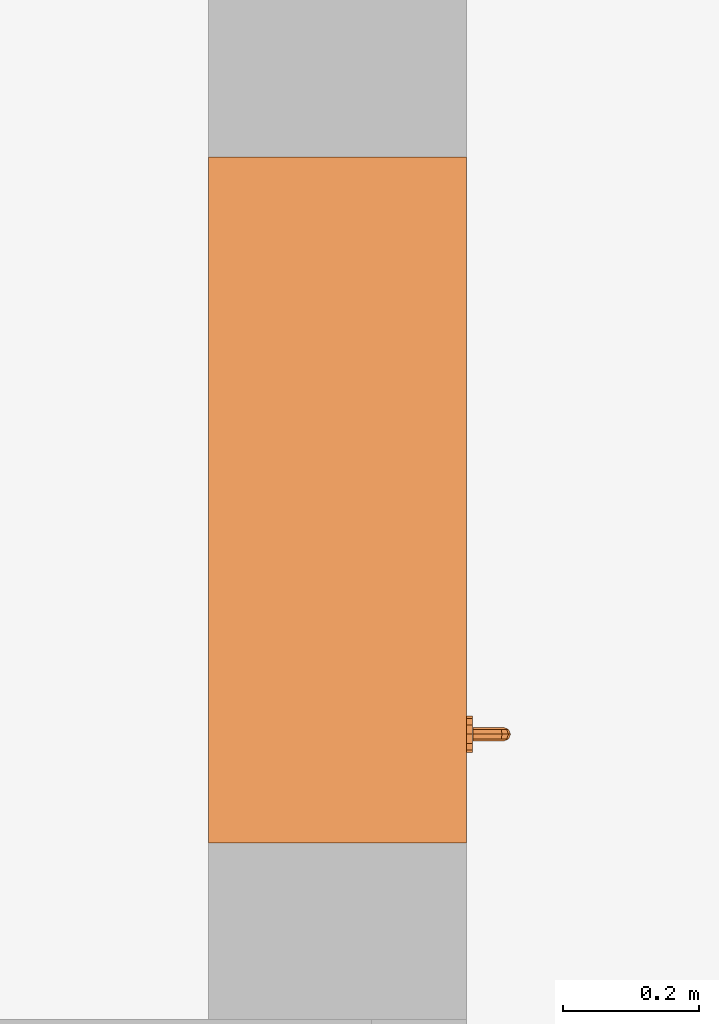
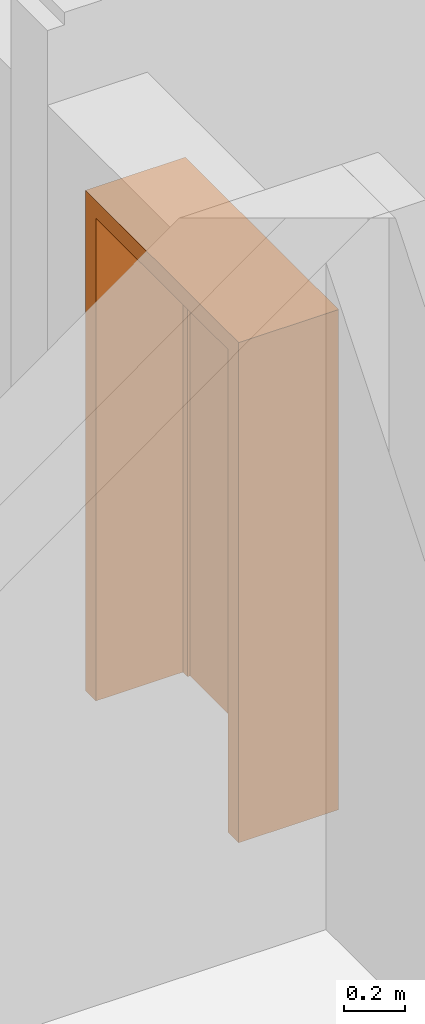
# One storey, part 3 of 5: 1 proxy.
"""IFC4 building model written with IfcOpenShell, lengths in metres."""

import ifcopenshell
import ifcopenshell.guid

model = None  # the IFC model being written
_history = None  # IfcOwnerHistory: only IFC2X3 demands one
_inside = {}  # id of a spatial element -> (the spatial element, [elements in it])
_under = {}  # id of a project, library or spatial element -> (it, [spatial elements below it])
_declared = {}  # id of a project -> (the project, [libraries it declares])
_typed = {}  # id of a type object -> (the type object, [elements of that type])
_made_of = {}  # id of a material, layer set ... -> (it, [elements and type objects made of it])


def new_model(schema):
    """Start an empty IFC model of exactly this schema.

    Asked for "IFC4X3", IfcOpenShell would pick the latest addendum, in which some entities
    have other attributes; the version numbers below select the first issue.
    IFC2X3 requires an IfcOwnerHistory on every rooted entity: one is made here for all.
    """
    global model, _history
    if schema == "IFC4X3":
        model = ifcopenshell.file(schema_version=(4, 3, 0, 0))
    else:
        model = ifcopenshell.file(schema=schema)
    _inside.clear()
    _under.clear()
    _declared.clear()
    _typed.clear()
    _made_of.clear()
    _history = None
    if model.schema == "IFC2X3":
        org = make("IfcOrganization", Name="unknown")
        user = make(
            "IfcPersonAndOrganization",
            ThePerson=make("IfcPerson", FamilyName="unknown"),
            TheOrganization=org,
        )
        app = make(
            "IfcApplication",
            ApplicationDeveloper=org,
            Version="unknown",
            ApplicationFullName="unknown",
            ApplicationIdentifier="unknown",
        )
        _history = make(
            "IfcOwnerHistory",
            OwningUser=user,
            OwningApplication=app,
            ChangeAction="ADDED",
            CreationDate=0,
        )
    return model


def make(cls, **values):
    """One entity of the class cls with the attributes given. An attribute that is None is left unset."""
    return model.create_entity(
        cls, **{name: value for name, value in values.items() if value is not None}
    )


def entity(cls, *values):
    """Any entity or typed value of the class cls, its attributes in the order of the schema. None: left unset."""
    e = model.create_entity(cls)
    for i, value in enumerate(values):
        if value is not None:
            e[i] = value
    return e


def rooted(cls, **values):
    """An entity with a GlobalId (a new one), such as an element, a storey or a relation."""
    return make(cls, GlobalId=ifcopenshell.guid.new(), OwnerHistory=_history, **values)


def si_unit(unit_type, name, prefix=None):
    """IfcSIUnit, for example si_unit("LENGTHUNIT", "METRE", prefix="MILLI")."""
    return make("IfcSIUnit", UnitType=unit_type, Prefix=prefix, Name=name)


def converted_unit(unit_type, name, factor, base, dimensions=None, offset=None):
    """IfcConversionBasedUnit, such as the inch: factor (a typed value) times the base unit."""
    return make(
        "IfcConversionBasedUnit"
        if offset is None
        else "IfcConversionBasedUnitWithOffset",
        ConversionOffset=offset,
        Dimensions=None
        if dimensions is None
        else entity("IfcDimensionalExponents", *dimensions),
        UnitType=unit_type,
        Name=name,
        ConversionFactor=make(
            "IfcMeasureWithUnit", ValueComponent=factor, UnitComponent=base
        ),
    )


def derived_unit(unit_type, elements):
    """IfcDerivedUnit: a product of units, each with its exponent."""
    return make(
        "IfcDerivedUnit",
        Elements=[
            make("IfcDerivedUnitElement", Unit=unit, Exponent=power)
            for unit, power in elements
        ],
        UnitType=unit_type,
    )


def assignment(units):
    """IfcUnitAssignment: the units of a project."""
    return None if units is None else make("IfcUnitAssignment", Units=units)


def point(xyz):
    """IfcCartesianPoint."""
    return None if xyz is None else make("IfcCartesianPoint", Coordinates=xyz)


def direction(xyz):
    """IfcDirection."""
    return None if xyz is None else make("IfcDirection", DirectionRatios=xyz)


def frame(location, z_axis=None, x_axis=None):
    """IfcAxis2Placement3D, a coordinate frame: its origin and axes. An axis left out is left unset."""
    return make(
        "IfcAxis2Placement3D",
        Location=point(location),
        Axis=direction(z_axis),
        RefDirection=direction(x_axis),
    )


def origin_with_axes():
    """The frame at (0, 0, 0) with the z axis (0, 0, 1) and the x axis (1, 0, 0) written out."""
    return frame((0.0, 0.0, 0.0), z_axis=(0.0, 0.0, 1.0), x_axis=(1.0, 0.0, 0.0))


def place(relative_to, where):
    """IfcLocalPlacement: puts the frame where relative to a parent placement (None: the world)."""
    return make(
        "IfcLocalPlacement", PlacementRelTo=relative_to, RelativePlacement=where
    )


def context(
    kind, dimensions, precision=None, world=None, true_north=None, identifier=None
):
    """IfcGeometricRepresentationContext, for example the 3D "Model" context."""
    return make(
        "IfcGeometricRepresentationContext",
        ContextIdentifier=identifier,
        ContextType=kind,
        CoordinateSpaceDimension=dimensions,
        Precision=precision,
        WorldCoordinateSystem=world,
        TrueNorth=true_north,
    )


def subcontext(parent, identifier, kind, view, scale=None):
    """IfcGeometricRepresentationSubContext, for example "Body" below "Model"."""
    return make(
        "IfcGeometricRepresentationSubContext",
        ContextIdentifier=identifier,
        ContextType=kind,
        ParentContext=parent,
        TargetScale=scale,
        TargetView=view,
    )


def project(units=None, contexts=None):
    """IfcProject with its units and contexts."""
    return rooted(
        "IfcProject",
        Name="project",
        RepresentationContexts=contexts,
        UnitsInContext=assignment(units),
    )


def spatial(cls, under=None, at=None, **own):
    """A site, building, storey or space (cls), placed at a placement, below another one or the project."""
    s = rooted(cls, ObjectPlacement=at, **own)
    if under is not None:
        _under.setdefault(under.id(), (under, []))[1].append(s)
    return s


def point_list(points):
    """IfcCartesianPointList2D or 3D."""
    cls = (
        "IfcCartesianPointList2D" if len(points[0]) == 2 else "IfcCartesianPointList3D"
    )
    return make(cls, CoordList=points)


def triangles(points, corners, closed=None, point_numbers=None):
    """IfcTriangulatedFaceSet: each triangle names its three corners, points numbered from 1."""
    return make(
        "IfcTriangulatedFaceSet",
        Coordinates=point_list(points),
        Closed=closed,
        CoordIndex=corners,
        PnIndex=point_numbers,
    )


def shape(context_of_items, identifier, shape_type, items):
    """IfcShapeRepresentation: the items that make up one representation, for example the "Body"."""
    return make(
        "IfcShapeRepresentation",
        ContextOfItems=context_of_items,
        RepresentationIdentifier=identifier,
        RepresentationType=shape_type,
        Items=items,
    )


def made_of(thing, what):
    """Note that an element or type object is made of a material, layer set ...; save() writes the relation."""
    if what is not None:
        _made_of.setdefault(what.id(), (what, []))[1].append(thing)
    return thing


def type_object(cls, material=None, **own):
    """A type object (cls), such as IfcWallType, which elements share."""
    return made_of(rooted(cls, **own), material)


def element(
    cls,
    number,
    at=None,
    inside=None,
    cuts=None,
    type_object=None,
    material=None,
    context=None,
    identifier="Body",
    shape_type=None,
    held_by="IfcProductDefinitionShape",
    body=None,
    shapes=None,
    **own,
):
    """One element of the class cls, such as IfcWall. Its Tag is "e" and its number.

    at: its placement. inside: the storey or other place that contains it. cuts: it is an
    opening in that element (IfcRelVoidsElement). A single representation is given by context,
    identifier, shape_type and body (its items); several are given by shapes. held_by: the class
    of the entity that holds the representations. save() writes the other relations.
    """
    e = rooted(cls, Tag="e%d" % number, ObjectPlacement=at, **own)
    if body is not None:
        shapes = [shape(context, identifier, shape_type, body)]
    if shapes is not None:
        e.Representation = make(held_by, Representations=shapes)
    if inside is not None:
        _inside.setdefault(inside.id(), (inside, []))[1].append(e)
    if cuts is not None:
        rooted(
            "IfcRelVoidsElement", RelatingBuildingElement=cuts, RelatedOpeningElement=e
        )
    if type_object is not None:
        _typed.setdefault(type_object.id(), (type_object, []))[1].append(e)
    return made_of(e, material)


def aggregate(whole, parts):
    """IfcRelAggregates: a whole, such as a stair, and the parts it consists of."""
    return rooted("IfcRelAggregates", RelatingObject=whole, RelatedObjects=parts)


def save(model, path):
    """Write the relations noted so far, then the file.

    IfcRelAggregates (storeys below a building ...), IfcRelContainedInSpatialStructure (elements
    in a storey), IfcRelDefinesByType, IfcRelAssociatesMaterial and IfcRelDeclares: one each for
    every whole, place, type object, material and project.
    """
    for whole, parts in _under.values():
        aggregate(whole, parts)
    for where, things in _inside.values():
        rooted(
            "IfcRelContainedInSpatialStructure",
            RelatedElements=things,
            RelatingStructure=where,
        )
    for kind, things in _typed.values():
        rooted("IfcRelDefinesByType", RelatedObjects=things, RelatingType=kind)
    for what, things in _made_of.values():
        rooted("IfcRelAssociatesMaterial", RelatedObjects=things, RelatingMaterial=what)
    for by, libraries in _declared.values():
        rooted("IfcRelDeclares", RelatingContext=by, RelatedDefinitions=libraries)
    model.write(path)


model = new_model("IFC4")

# Units and contexts
model_context = context("Model", 3, precision=1e-05, world=origin_with_axes(), true_north=direction((-0.526213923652, 0.850352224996)))
body_context = subcontext(model_context, "Body", "Model", "MODEL_VIEW")
ifc_project = project(units=[si_unit("LENGTHUNIT", "METRE"), si_unit("AREAUNIT", "SQUARE_METRE"), si_unit("VOLUMEUNIT", "CUBIC_METRE"), converted_unit("PLANEANGLEUNIT", "DEGREE", entity("IfcPlaneAngleMeasure", 0.0174532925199), si_unit("PLANEANGLEUNIT", "RADIAN"), dimensions=[0, 0, 0, 0, 0, 0, 0]), si_unit("SOLIDANGLEUNIT", "STERADIAN"), converted_unit("TIMEUNIT", "Year", entity("IfcTimeMeasure", 31556926.0), si_unit("TIMEUNIT", "SECOND"), dimensions=[0, 0, 1, 0, 0, 0, 0]), si_unit("MASSUNIT", "GRAM", prefix="KILO"), si_unit("THERMODYNAMICTEMPERATUREUNIT", "DEGREE_CELSIUS"), si_unit("LUMINOUSINTENSITYUNIT", "LUMEN"), si_unit("ENERGYUNIT", "JOULE", prefix="MEGA"), derived_unit("THERMALCONDUCTANCEUNIT", [(si_unit("POWERUNIT", "WATT"), 1), (si_unit("LENGTHUNIT", "METRE"), -1), (si_unit("THERMODYNAMICTEMPERATUREUNIT", "KELVIN"), -1)]), derived_unit("SPECIFICHEATCAPACITYUNIT", [(si_unit("ENERGYUNIT", "JOULE"), 1), (si_unit("MASSUNIT", "GRAM", prefix="KILO"), -1), (si_unit("THERMODYNAMICTEMPERATUREUNIT", "KELVIN"), -1)]), derived_unit("MASSDENSITYUNIT", [(si_unit("MASSUNIT", "GRAM", prefix="KILO"), 1), (si_unit("VOLUMEUNIT", "CUBIC_METRE"), -1)])], contexts=[model_context])

# Site, building, storey
site_placement = place(None, origin_with_axes())
site = spatial("IfcSite", under=ifc_project, at=site_placement, Name="Gelände", CompositionType="ELEMENT")
building_placement = place(site_placement, origin_with_axes())
building = spatial("IfcBuilding", under=site, at=building_placement, Name="Haus vom Nikolaus", CompositionType="ELEMENT")
storey_placement = place(building_placement, frame((0.0, 0.0, -2.8), z_axis=(0.0, 0.0, 1.0), x_axis=(1.0, 0.0, 0.0)))
storey = spatial("IfcBuildingStorey", under=building, at=storey_placement, Name="-1. Geschoss", CompositionType="ELEMENT", Elevation=-2.8)

# Proxy
building_element_proxy_type = type_object("IfcBuildingElementProxyType", Name="Eingangstür 02 1 22", PredefinedType="NOTDEFINED")
proxy_placement = place(storey_placement, frame((0.239997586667, 6.98983205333, 0.0), z_axis=(0.0, 0.0, 1.0), x_axis=(0.0, -1.0, 0.0)))
element("IfcBuildingElementProxy", 1, at=proxy_placement, inside=storey, type_object=building_element_proxy_type, Name="Tür-004", PredefinedType="NOTDEFINED", context=body_context, shape_type="Tessellation", body=[
    triangles([(1.01, -0.24, 2.01), (0.0, -0.24, 1.94), (1.01, -0.24, 1.94), (0.0, -0.24, 2.01), (1.01, 0.09, 1.94), (0.0, 0.09, 1.94), (1.01, -0.225, 1.96), (1.01, -0.225, 2.01), (1.01, 0.09, 1.96), (0.0, -0.225, 2.01), (0.0, -0.225, 1.96), (0.0, 0.09, 1.96)], [[1, 2, 3], [1, 4, 2], [2, 5, 3], [5, 2, 6], [1, 7, 8], [7, 5, 9], [7, 1, 3], [5, 7, 3], [8, 4, 1], [8, 10, 4], [11, 6, 2], [11, 4, 10], [6, 11, 12], [4, 11, 2], [5, 12, 9], [5, 6, 12], [9, 11, 7], [9, 12, 11], [7, 10, 8], [7, 11, 10]], closed=True),
    triangles([(1.01, -0.225, 2.01), (0.0, -0.225, 1.96), (1.01, -0.225, 1.96), (0.0, -0.225, 2.01), (1.01, 0.09, 1.96), (0.0, 0.09, 1.96), (1.01, 0.09, 2.01), (0.0, 0.09, 2.01)], [[1, 2, 3], [1, 4, 2], [2, 5, 3], [5, 2, 6], [1, 5, 7], [5, 1, 3], [7, 4, 1], [7, 8, 4], [8, 2, 4], [8, 6, 2], [5, 8, 7], [5, 6, 8]], closed=True),
    triangles([(0.0, -0.24, 1.94), (0.0, -0.225, 0.0), (0.0, -0.24, 0.0), (0.0, -0.225, 1.94), (0.07, -0.24, 0.0), (0.05, -0.225, 0.0), (0.07, 0.09, 0.0), (0.05, 0.09, 0.0), (0.07, -0.24, 1.94), (0.05, -0.225, 1.94), (0.07, 0.09, 1.94), (0.05, 0.09, 1.94)], [[1, 2, 3], [1, 4, 2], [5, 3, 6], [6, 3, 2], [7, 6, 8], [7, 5, 6], [9, 3, 5], [9, 1, 3], [10, 11, 12], [10, 4, 1], [11, 10, 9], [9, 10, 1], [4, 6, 2], [4, 10, 6], [10, 8, 6], [10, 12, 8], [12, 7, 8], [12, 11, 7], [9, 7, 11], [7, 9, 5]], closed=True),
    triangles([(0.0, -0.225, 1.94), (0.0, 0.09, 0.0), (0.0, -0.225, 0.0), (0.0, 0.09, 1.94), (0.05, 0.09, 0.0), (0.05, -0.225, 0.0), (0.05, -0.225, 1.94), (0.05, 0.09, 1.94)], [[1, 2, 3], [1, 4, 2], [5, 3, 2], [5, 6, 3], [7, 3, 6], [7, 1, 3], [8, 1, 7], [8, 4, 1], [4, 5, 2], [4, 8, 5], [7, 5, 8], [5, 7, 6]], closed=True),
    triangles([(1.01, -0.225, 1.94), (1.01, -0.24, 0.0), (1.01, -0.225, 0.0), (1.01, -0.24, 1.94), (0.96, -0.225, 0.0), (0.94, 0.09, 0.0), (0.96, 0.09, 0.0), (0.94, -0.24, 0.0), (0.96, -0.225, 1.94), (0.94, -0.24, 1.94), (0.94, 0.09, 1.94), (0.96, 0.09, 1.94)], [[1, 2, 3], [1, 4, 2], [5, 6, 7], [5, 3, 2], [6, 5, 8], [8, 5, 2], [9, 3, 5], [9, 1, 3], [10, 4, 9], [9, 4, 1], [11, 9, 12], [11, 10, 9], [4, 8, 2], [4, 10, 8], [10, 6, 8], [10, 11, 6], [11, 7, 6], [11, 12, 7], [9, 7, 12], [7, 9, 5]], closed=True),
    triangles([(1.01, -0.225, 1.94), (1.01, 0.09, 0.0), (1.01, 0.09, 1.94), (1.01, -0.225, 0.0), (0.96, 0.09, 0.0), (0.96, -0.225, 0.0), (0.96, 0.09, 1.94), (0.96, -0.225, 1.94)], [[1, 2, 3], [2, 1, 4], [5, 4, 6], [5, 2, 4], [7, 2, 5], [7, 3, 2], [7, 1, 3], [7, 8, 1], [1, 6, 4], [1, 8, 6], [8, 5, 6], [8, 7, 5]], closed=True),
    triangles([(0.0, 0.1, 2.01), (0.0, 0.09, 0.0), (0.0, 0.09, 2.01), (0.0, 0.1, 0.0), (0.1, 0.09, 1.91), (0.4049, 0.09, 1.91), (0.1, 0.09, 0.0), (0.5049, 0.09, 1.91), (1.01, 0.09, 2.01), (0.91, 0.09, 1.91), (1.01, 0.09, 0.0), (0.91, 0.09, 0.0), (1.01, 0.1, 2.01), (0.1, 0.1, 1.91), (0.1, 0.1, 0.0), (0.91, 0.1, 1.91), (1.01, 0.1, 0.0), (0.91, 0.1, 0.0), (0.5049, 0.1, 1.91), (0.4049, 0.1, 1.91)], [[1, 2, 3], [1, 4, 2], [3, 2, 5], [6, 3, 5], [5, 2, 7], [8, 3, 6], [3, 8, 9], [9, 8, 10], [11, 9, 10], [11, 10, 12], [13, 3, 9], [13, 1, 3], [14, 15, 4], [16, 17, 18], [19, 13, 16], [17, 16, 13], [20, 1, 19], [13, 19, 1], [14, 1, 20], [1, 14, 4], [4, 7, 2], [4, 15, 7], [15, 5, 7], [15, 14, 5], [14, 6, 5], [14, 20, 6], [20, 8, 6], [20, 19, 8], [19, 10, 8], [19, 16, 10], [16, 12, 10], [16, 18, 12], [18, 11, 12], [18, 17, 11], [17, 9, 11], [17, 13, 9]], closed=True),
    triangles([(0.0, 0.14, 2.01), (0.0, 0.1, 0.0), (0.0, 0.1, 2.01), (0.0, 0.14, 0.0), (0.1, 0.1, 1.91), (0.4049, 0.1, 1.91), (0.1, 0.1, 0.0), (0.5049, 0.1, 1.91), (1.01, 0.1, 2.01), (0.91, 0.1, 1.91), (1.01, 0.1, 0.0), (0.91, 0.1, 0.0), (1.01, 0.14, 2.01), (0.1, 0.14, 1.91), (0.1, 0.14, 0.0), (1.01, 0.14, 0.0), (0.91, 0.14, 1.91), (0.91, 0.14, 0.0), (0.5049, 0.14, 1.91), (0.4049, 0.14, 1.91)], [[1, 2, 3], [1, 4, 2], [3, 2, 5], [6, 3, 5], [5, 2, 7], [8, 3, 6], [3, 8, 9], [9, 8, 10], [11, 9, 10], [11, 10, 12], [13, 3, 9], [13, 1, 3], [14, 15, 4], [16, 17, 13], [17, 16, 18], [13, 19, 1], [19, 13, 17], [20, 1, 19], [14, 1, 20], [1, 14, 4], [15, 2, 4], [2, 15, 7], [15, 5, 7], [15, 14, 5], [14, 6, 5], [14, 20, 6], [20, 8, 6], [20, 19, 8], [19, 10, 8], [19, 17, 10], [17, 12, 10], [17, 18, 12], [16, 12, 18], [12, 16, 11], [16, 9, 11], [16, 13, 9]], closed=True),
    triangles([(0.91, 0.14, 0.0), (0.1, 0.1, 0.0), (0.1, 0.14, 0.0), (0.91, 0.1, 0.0), (0.1, 0.1, 1.91), (0.1, 0.14, 1.91), (0.91, 0.14, 1.91), (0.91, 0.1, 1.91)], [[1, 2, 3], [1, 4, 2], [3, 5, 6], [3, 2, 5], [7, 3, 6], [7, 1, 3], [7, 4, 1], [7, 8, 4], [8, 2, 4], [8, 5, 2], [6, 8, 7], [6, 5, 8]], closed=True),
    triangles([(0.842928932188, 0.059069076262, 0.142928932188), (0.85, 0.09, 0.14), (0.85, 0.0586834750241, 0.14), (0.842928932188, 0.09, 0.142928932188), (0.857071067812, 0.059069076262, 0.142928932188), (0.857071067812, 0.09, 0.142928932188), (0.842928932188, 0.0488397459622, 0.145669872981), (0.85, 0.0473236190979, 0.143043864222), (0.84, 0.06, 0.15), (0.84, 0.09, 0.15), (0.86, 0.09, 0.15), (0.857071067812, 0.09, 0.157071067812), (0.842928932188, 0.09, 0.157071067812), (0.85, 0.09, 0.16), (0.86, 0.06, 0.15), (0.857071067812, 0.0488397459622, 0.145669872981), (0.842928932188, 0.0406698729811, 0.153839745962), (0.85, 0.0380438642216, 0.152323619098), (0.84, 0.0525, 0.152009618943), (0.842928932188, 0.060930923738, 0.157071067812), (0.85, 0.0613165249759, 0.16), (0.857071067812, 0.060930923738, 0.157071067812), (0.86, 0.0525, 0.152009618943), (0.857071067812, 0.0406698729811, 0.153839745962), (0.85, 0.035, 0.163683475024), (0.842928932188, 0.0379289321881, 0.164069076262), (0.84, 0.0470096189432, 0.1575), (0.842928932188, 0.0561602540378, 0.158349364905), (0.85, 0.057676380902, 0.160975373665), (0.857071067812, 0.0561602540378, 0.158349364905), (0.86, 0.0470096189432, 0.1575), (0.857071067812, 0.0379289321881, 0.164069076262), (0.842928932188, 0.0379289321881, 1.74593092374), (0.85, 0.035, 1.74631652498), (0.84, 0.045, 0.165), (0.842928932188, 0.0533493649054, 0.161160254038), (0.85, 0.0559753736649, 0.162676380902), (0.857071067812, 0.0533493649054, 0.161160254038), (0.86, 0.045, 0.165), (0.857071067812, 0.0379289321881, 1.74593092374), (0.842928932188, 0.0406698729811, 1.75616025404), (0.85, 0.0380438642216, 1.7576763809), (0.84, 0.045, 1.745), (0.842928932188, 0.0520710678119, 0.165930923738), (0.85, 0.055, 0.166316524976), (0.857071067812, 0.0520710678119, 0.165930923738), (0.86, 0.045, 1.745), (0.857071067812, 0.0406698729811, 1.75616025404), (0.842928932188, 0.0488397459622, 1.76433012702), (0.85, 0.0473236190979, 1.76695613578), (0.84, 0.0470096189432, 1.7525), (0.842928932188, 0.0520710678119, 1.74406907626), (0.85, 0.055, 1.74368347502), (0.857071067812, 0.0520710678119, 1.74406907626), (0.86, 0.0470096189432, 1.7525), (0.857071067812, 0.0488397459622, 1.76433012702), (0.85, 0.0586834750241, 1.77), (0.842928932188, 0.059069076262, 1.76707106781), (0.84, 0.0525, 1.75799038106), (0.842928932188, 0.0533493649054, 1.74883974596), (0.85, 0.0559753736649, 1.7473236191), (0.857071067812, 0.0533493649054, 1.74883974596), (0.86, 0.0525, 1.75799038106), (0.857071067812, 0.059069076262, 1.76707106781), (0.85, 0.09, 1.77), (0.842928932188, 0.09, 1.76707106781), (0.84, 0.06, 1.76), (0.842928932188, 0.0561602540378, 1.75165063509), (0.85, 0.057676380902, 1.74902462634), (0.857071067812, 0.0561602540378, 1.75165063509), (0.86, 0.06, 1.76), (0.857071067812, 0.09, 1.76707106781), (0.857071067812, 0.09, 1.75292893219), (0.84, 0.09, 1.76), (0.86, 0.09, 1.76), (0.842928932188, 0.09, 1.75292893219), (0.85, 0.09, 1.75), (0.842928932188, 0.060930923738, 1.75292893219), (0.85, 0.0613165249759, 1.75), (0.857071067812, 0.060930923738, 1.75292893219)], [[1, 2, 3], [1, 4, 2], [2, 5, 3], [5, 2, 6], [7, 3, 8], [7, 1, 3], [9, 4, 1], [9, 10, 4], [10, 11, 4], [12, 13, 14], [13, 11, 10], [4, 11, 2], [11, 13, 12], [11, 6, 2], [6, 15, 5], [15, 6, 11], [3, 16, 8], [16, 3, 5], [17, 8, 18], [17, 7, 8], [19, 1, 7], [19, 9, 1], [20, 10, 9], [20, 13, 10], [21, 13, 20], [21, 14, 13], [12, 21, 22], [21, 12, 14], [11, 22, 15], [22, 11, 12], [5, 23, 16], [23, 5, 15], [8, 24, 18], [24, 8, 16], [17, 25, 26], [25, 17, 18], [19, 17, 27], [17, 19, 7], [28, 9, 19], [28, 20, 9], [29, 20, 28], [29, 21, 20], [22, 29, 30], [29, 22, 21], [15, 30, 23], [30, 15, 22], [24, 23, 31], [24, 16, 23], [25, 24, 32], [25, 18, 24], [33, 25, 34], [33, 26, 25], [27, 26, 35], [26, 27, 17], [36, 19, 27], [36, 28, 19], [29, 36, 37], [36, 29, 28], [38, 29, 37], [38, 30, 29], [38, 23, 30], [23, 38, 31], [32, 31, 39], [32, 24, 31], [25, 40, 34], [40, 25, 32], [41, 34, 42], [41, 33, 34], [35, 33, 43], [33, 35, 26], [36, 35, 44], [35, 36, 27], [37, 44, 45], [44, 37, 36], [46, 37, 45], [46, 38, 37], [39, 31, 38], [39, 38, 46], [40, 39, 47], [40, 32, 39], [34, 48, 42], [48, 34, 40], [49, 42, 50], [49, 41, 42], [51, 33, 41], [51, 43, 33], [52, 35, 43], [52, 44, 35], [45, 52, 53], [52, 45, 44], [54, 45, 53], [54, 46, 45], [47, 46, 54], [47, 39, 46], [40, 55, 48], [55, 40, 47], [42, 56, 50], [56, 42, 48], [49, 57, 58], [57, 49, 50], [51, 49, 59], [49, 51, 41], [60, 43, 51], [60, 52, 43], [61, 52, 60], [61, 53, 52], [54, 61, 62], [61, 54, 53], [47, 62, 55], [62, 47, 54], [56, 55, 63], [56, 48, 55], [57, 56, 64], [57, 50, 56], [58, 65, 66], [65, 58, 57], [59, 58, 67], [58, 59, 49], [68, 51, 59], [68, 60, 51], [61, 68, 69], [68, 61, 60], [70, 61, 69], [70, 62, 61], [70, 55, 62], [55, 70, 63], [64, 63, 71], [64, 56, 63], [65, 64, 72], [65, 57, 64], [73, 74, 75], [76, 73, 77], [74, 72, 75], [72, 74, 65], [74, 73, 76], [74, 66, 65], [67, 66, 74], [66, 67, 58], [68, 67, 78], [67, 68, 59], [69, 78, 79], [78, 69, 68], [80, 69, 79], [80, 70, 69], [71, 63, 70], [71, 70, 80], [72, 71, 75], [72, 64, 71], [75, 80, 73], [75, 71, 80], [73, 79, 77], [73, 80, 79], [79, 76, 77], [76, 79, 78], [78, 74, 76], [74, 78, 67]], closed=True),
    triangles([(0.877, 0.1, 0.15), (0.873382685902, 0.091, 0.1365), (0.873382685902, 0.1, 0.1365), (0.877, 0.091, 0.15), (0.8635, 0.091, 0.126617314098), (0.8635, 0.1, 0.126617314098), (0.873382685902, 0.1, 0.1635), (0.873382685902, 0.091, 0.1635), (0.826617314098, 0.091, 0.1365), (0.826617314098, 0.091, 0.1635), (0.823, 0.091, 0.15), (0.8365, 0.091, 0.173382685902), (0.8635, 0.091, 0.173382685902), (0.85, 0.091, 0.177), (0.85, 0.091, 0.123), (0.8365, 0.091, 0.126617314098), (0.85, 0.1, 0.123), (0.8635, 0.1, 0.173382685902), (0.85, 0.1, 0.177), (0.8365, 0.1, 0.173382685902), (0.826617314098, 0.1, 0.1635), (0.823, 0.1, 0.15), (0.826617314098, 0.1, 0.1365), (0.8365, 0.1, 0.126617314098)], [[1, 2, 3], [1, 4, 2], [3, 5, 6], [3, 2, 5], [7, 4, 1], [7, 8, 4], [9, 10, 11], [12, 13, 14], [13, 4, 8], [13, 12, 4], [15, 10, 9], [15, 12, 10], [15, 9, 16], [12, 15, 4], [2, 4, 5], [15, 5, 4], [6, 15, 17], [6, 5, 15], [13, 7, 18], [7, 13, 8], [19, 13, 18], [19, 14, 13], [20, 14, 19], [20, 12, 14], [21, 12, 20], [21, 10, 12], [22, 10, 21], [22, 11, 10], [23, 11, 22], [23, 9, 11], [24, 9, 23], [24, 16, 9], [17, 16, 24], [17, 15, 16]], closed=False),
    triangles([(0.877, 0.1, 1.76), (0.873382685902, 0.091, 1.7465), (0.873382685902, 0.1, 1.7465), (0.877, 0.091, 1.76), (0.8635, 0.091, 1.7366173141), (0.8635, 0.1, 1.7366173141), (0.873382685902, 0.1, 1.7735), (0.873382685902, 0.091, 1.7735), (0.826617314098, 0.091, 1.7465), (0.826617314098, 0.091, 1.7735), (0.823, 0.091, 1.76), (0.85, 0.091, 1.787), (0.8635, 0.091, 1.7833826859), (0.8365, 0.091, 1.7833826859), (0.85, 0.091, 1.733), (0.8365, 0.091, 1.7366173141), (0.85, 0.1, 1.733), (0.8635, 0.1, 1.7833826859), (0.85, 0.1, 1.787), (0.8365, 0.1, 1.7833826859), (0.826617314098, 0.1, 1.7735), (0.823, 0.1, 1.76), (0.826617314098, 0.1, 1.7465), (0.8365, 0.1, 1.7366173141)], [[1, 2, 3], [1, 4, 2], [3, 5, 6], [3, 2, 5], [7, 4, 1], [7, 8, 4], [9, 10, 11], [12, 4, 13], [13, 4, 8], [14, 4, 12], [10, 15, 14], [15, 10, 9], [15, 9, 16], [14, 15, 4], [2, 4, 5], [15, 5, 4], [6, 15, 17], [6, 5, 15], [18, 8, 7], [18, 13, 8], [19, 13, 18], [19, 12, 13], [20, 12, 19], [20, 14, 12], [21, 14, 20], [21, 10, 14], [22, 10, 21], [22, 11, 10], [23, 11, 22], [23, 9, 11], [24, 9, 23], [24, 16, 9], [17, 16, 24], [17, 15, 16]], closed=False),
    triangles([(0.842928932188, 0.180930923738, 0.142928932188), (0.85, 0.15, 0.14), (0.842928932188, 0.15, 0.142928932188), (0.85, 0.181316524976, 0.14), (0.86, 0.15, 0.15), (0.84, 0.15, 0.15), (0.857071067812, 0.15, 0.142928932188), (0.842928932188, 0.15, 0.157071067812), (0.857071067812, 0.15, 0.157071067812), (0.85, 0.15, 0.16), (0.84, 0.18, 0.15), (0.842928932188, 0.191160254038, 0.145669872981), (0.85, 0.192676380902, 0.143043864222), (0.857071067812, 0.180930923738, 0.142928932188), (0.86, 0.18, 0.15), (0.857071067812, 0.179069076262, 0.157071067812), (0.85, 0.178683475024, 0.16), (0.842928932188, 0.179069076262, 0.157071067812), (0.84, 0.1875, 0.152009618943), (0.842928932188, 0.199330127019, 0.153839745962), (0.85, 0.201956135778, 0.152323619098), (0.857071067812, 0.191160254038, 0.145669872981), (0.86, 0.1875, 0.152009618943), (0.857071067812, 0.183839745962, 0.158349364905), (0.85, 0.182323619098, 0.160975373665), (0.842928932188, 0.183839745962, 0.158349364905), (0.84, 0.192990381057, 0.1575), (0.85, 0.205, 0.163683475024), (0.842928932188, 0.202071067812, 0.164069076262), (0.857071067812, 0.199330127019, 0.153839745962), (0.86, 0.192990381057, 0.1575), (0.857071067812, 0.186650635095, 0.161160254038), (0.85, 0.184024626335, 0.162676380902), (0.842928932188, 0.186650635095, 0.161160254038), (0.84, 0.195, 0.165), (0.85, 0.205, 1.74631652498), (0.842928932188, 0.202071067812, 1.74593092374), (0.857071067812, 0.202071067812, 0.164069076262), (0.86, 0.195, 0.165), (0.857071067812, 0.187928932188, 0.165930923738), (0.85, 0.185, 0.166316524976), (0.842928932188, 0.187928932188, 0.165930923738), (0.84, 0.195, 1.745), (0.842928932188, 0.199330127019, 1.75616025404), (0.85, 0.201956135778, 1.7576763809), (0.857071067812, 0.202071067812, 1.74593092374), (0.86, 0.195, 1.745), (0.857071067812, 0.187928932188, 1.74406907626), (0.85, 0.185, 1.74368347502), (0.842928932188, 0.187928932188, 1.74406907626), (0.84, 0.192990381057, 1.7525), (0.842928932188, 0.191160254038, 1.76433012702), (0.85, 0.192676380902, 1.76695613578), (0.857071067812, 0.199330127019, 1.75616025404), (0.86, 0.192990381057, 1.7525), (0.857071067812, 0.186650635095, 1.74883974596), (0.85, 0.184024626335, 1.7473236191), (0.842928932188, 0.186650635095, 1.74883974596), (0.84, 0.1875, 1.75799038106), (0.85, 0.181316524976, 1.77), (0.842928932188, 0.180930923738, 1.76707106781), (0.857071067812, 0.191160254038, 1.76433012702), (0.86, 0.1875, 1.75799038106), (0.857071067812, 0.183839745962, 1.75165063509), (0.85, 0.182323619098, 1.74902462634), (0.842928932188, 0.183839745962, 1.75165063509), (0.84, 0.18, 1.76), (0.85, 0.15, 1.77), (0.842928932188, 0.15, 1.76707106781), (0.857071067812, 0.180930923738, 1.76707106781), (0.86, 0.18, 1.76), (0.857071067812, 0.179069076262, 1.75292893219), (0.85, 0.178683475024, 1.75), (0.842928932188, 0.179069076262, 1.75292893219), (0.84, 0.15, 1.76), (0.86, 0.15, 1.76), (0.857071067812, 0.15, 1.75292893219), (0.842928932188, 0.15, 1.75292893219), (0.85, 0.15, 1.75), (0.857071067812, 0.15, 1.76707106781)], [[1, 2, 3], [1, 4, 2], [5, 6, 7], [8, 9, 10], [6, 5, 8], [3, 7, 6], [9, 8, 5], [7, 3, 2], [11, 3, 6], [11, 1, 3], [12, 4, 1], [12, 13, 4], [14, 2, 4], [2, 14, 7], [15, 7, 14], [7, 15, 5], [16, 5, 15], [5, 16, 9], [17, 9, 16], [9, 17, 10], [17, 8, 10], [17, 18, 8], [18, 6, 8], [18, 11, 6], [19, 1, 11], [19, 12, 1], [20, 13, 12], [20, 21, 13], [22, 4, 13], [4, 22, 14], [23, 14, 22], [14, 23, 15], [24, 15, 23], [15, 24, 16], [25, 16, 24], [16, 25, 17], [25, 18, 17], [25, 26, 18], [26, 11, 18], [26, 19, 11], [20, 19, 27], [19, 20, 12], [28, 20, 29], [20, 28, 21], [30, 13, 21], [13, 30, 22], [31, 23, 30], [30, 23, 22], [23, 32, 24], [32, 23, 31], [32, 25, 24], [32, 33, 25], [34, 25, 33], [25, 34, 26], [34, 19, 26], [34, 27, 19], [29, 27, 35], [27, 29, 20], [36, 29, 37], [29, 36, 28], [28, 30, 21], [28, 38, 30], [39, 31, 38], [38, 31, 30], [39, 40, 32], [39, 32, 31], [40, 33, 32], [40, 41, 33], [42, 33, 41], [33, 42, 34], [35, 34, 42], [34, 35, 27], [37, 35, 43], [35, 37, 29], [44, 36, 37], [44, 45, 36], [28, 36, 38], [46, 38, 36], [38, 46, 39], [47, 39, 46], [48, 39, 47], [39, 48, 40], [40, 48, 41], [49, 41, 48], [49, 42, 41], [49, 50, 42], [50, 35, 42], [50, 43, 35], [51, 37, 43], [51, 44, 37], [52, 45, 44], [52, 53, 45], [54, 36, 45], [36, 54, 46], [55, 46, 54], [46, 55, 47], [56, 47, 55], [47, 56, 48], [57, 48, 56], [48, 57, 49], [57, 50, 49], [57, 58, 50], [58, 43, 50], [58, 51, 43], [59, 44, 51], [59, 52, 44], [60, 52, 61], [52, 60, 53], [62, 45, 53], [45, 62, 54], [63, 55, 62], [62, 55, 54], [55, 64, 56], [64, 55, 63], [65, 56, 64], [56, 65, 57], [65, 58, 57], [65, 66, 58], [59, 58, 66], [58, 59, 51], [61, 59, 67], [59, 61, 52], [68, 61, 69], [61, 68, 60], [60, 62, 53], [60, 70, 62], [71, 63, 70], [70, 63, 62], [71, 72, 64], [71, 64, 63], [72, 65, 64], [72, 73, 65], [74, 65, 73], [65, 74, 66], [67, 66, 74], [66, 67, 59], [69, 67, 75], [67, 69, 61], [76, 75, 77], [77, 75, 78], [75, 68, 69], [75, 76, 68], [77, 78, 79], [76, 80, 68], [80, 70, 68], [68, 70, 60], [76, 71, 80], [80, 71, 70], [77, 72, 76], [76, 72, 71], [79, 73, 77], [77, 73, 72], [78, 73, 79], [73, 78, 74], [75, 74, 78], [74, 75, 67]], closed=True),
    triangles([(0.877, 0.14, 0.15), (0.873382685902, 0.149, 0.1365), (0.877, 0.149, 0.15), (0.873382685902, 0.14, 0.1365), (0.826617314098, 0.149, 0.1635), (0.826617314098, 0.149, 0.1365), (0.823, 0.149, 0.15), (0.85, 0.149, 0.123), (0.8635, 0.149, 0.126617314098), (0.8365, 0.149, 0.126617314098), (0.8365, 0.149, 0.173382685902), (0.8635, 0.149, 0.173382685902), (0.85, 0.149, 0.177), (0.873382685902, 0.149, 0.1635), (0.873382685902, 0.14, 0.1635), (0.8635, 0.14, 0.126617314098), (0.85, 0.14, 0.123), (0.8365, 0.14, 0.126617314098), (0.826617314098, 0.14, 0.1365), (0.823, 0.14, 0.15), (0.826617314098, 0.14, 0.1635), (0.8365, 0.14, 0.173382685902), (0.85, 0.14, 0.177), (0.8635, 0.14, 0.173382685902)], [[1, 2, 3], [1, 4, 2], [5, 6, 7], [8, 3, 9], [9, 3, 2], [6, 8, 10], [8, 5, 3], [5, 8, 6], [11, 3, 5], [12, 11, 13], [14, 3, 12], [11, 12, 3], [15, 3, 14], [15, 1, 3], [4, 9, 2], [4, 16, 9], [16, 8, 9], [16, 17, 8], [17, 10, 8], [17, 18, 10], [18, 6, 10], [18, 19, 6], [19, 7, 6], [19, 20, 7], [20, 5, 7], [20, 21, 5], [21, 11, 5], [21, 22, 11], [22, 13, 11], [22, 23, 13], [23, 12, 13], [23, 24, 12], [24, 14, 12], [24, 15, 14]], closed=False),
    triangles([(0.877, 0.14, 1.76), (0.873382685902, 0.149, 1.7465), (0.877, 0.149, 1.76), (0.873382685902, 0.14, 1.7465), (0.826617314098, 0.149, 1.7735), (0.826617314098, 0.149, 1.7465), (0.823, 0.149, 1.76), (0.85, 0.149, 1.733), (0.8635, 0.149, 1.7366173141), (0.8365, 0.149, 1.7366173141), (0.8365, 0.149, 1.7833826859), (0.85, 0.149, 1.787), (0.873382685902, 0.149, 1.7735), (0.8635, 0.149, 1.7833826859), (0.873382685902, 0.14, 1.7735), (0.8635, 0.14, 1.7366173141), (0.85, 0.14, 1.733), (0.8365, 0.14, 1.7366173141), (0.826617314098, 0.14, 1.7465), (0.823, 0.14, 1.76), (0.826617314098, 0.14, 1.7735), (0.8365, 0.14, 1.7833826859), (0.85, 0.14, 1.787), (0.8635, 0.14, 1.7833826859)], [[1, 2, 3], [1, 4, 2], [5, 6, 7], [8, 3, 9], [9, 3, 2], [6, 8, 10], [8, 5, 3], [5, 8, 6], [11, 3, 5], [12, 3, 11], [12, 13, 3], [13, 12, 14], [15, 3, 13], [15, 1, 3], [4, 9, 2], [4, 16, 9], [16, 8, 9], [16, 17, 8], [17, 10, 8], [17, 18, 10], [18, 6, 10], [18, 19, 6], [19, 7, 6], [19, 20, 7], [20, 5, 7], [20, 21, 5], [21, 11, 5], [21, 22, 11], [22, 12, 11], [22, 23, 12], [23, 14, 12], [23, 24, 14], [24, 13, 14], [24, 15, 13]], closed=False),
])

save(model, "model.ifc")
